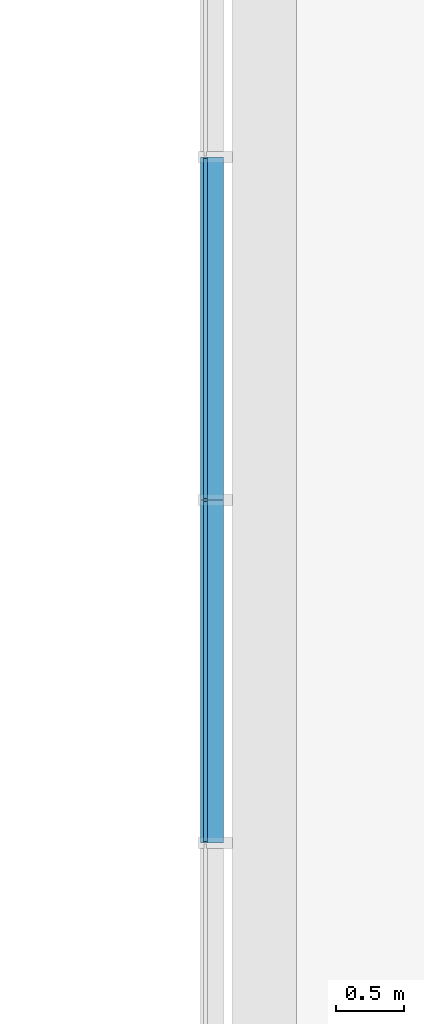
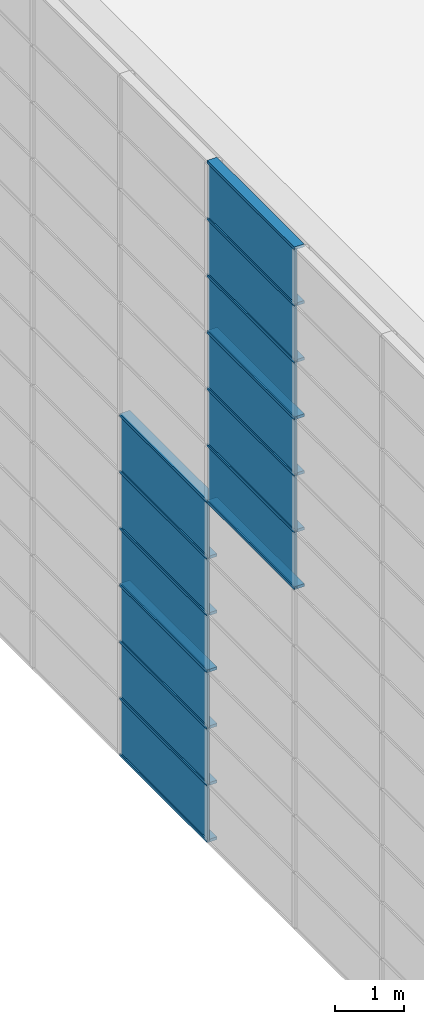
# One storey, part 17 of 105: 29 building element parts, 4 elements without a shape of their own.
"""IFC4 building model written with IfcOpenShell, lengths in millimetres."""

from ifc_helpers import new_model, entity, si_unit, converted_unit, derived_unit, direction, frame, origin_with_axes, place, context, subcontext, project, spatial, triangles, material, element, aggregate, save


model = new_model("IFC4")

# Units and contexts
model_context = context("Model", 3, precision=1e-05, world=origin_with_axes(), true_north=direction((0.0, 1.0)))
body_context = subcontext(model_context, "Body", "Model", "MODEL_VIEW")
ifc_project = project(units=[si_unit("LENGTHUNIT", "METRE", prefix="MILLI"), si_unit("AREAUNIT", "SQUARE_METRE"), si_unit("VOLUMEUNIT", "CUBIC_METRE"), converted_unit("PLANEANGLEUNIT", "DEGREE", entity("IfcLengthMeasure", 0.017453), si_unit("PLANEANGLEUNIT", "RADIAN"), dimensions=[0, 0, 0, 0, 0, 0, 0]), si_unit("SOLIDANGLEUNIT", "STERADIAN"), si_unit("MASSUNIT", "GRAM"), si_unit("TIMEUNIT", "SECOND"), si_unit("THERMODYNAMICTEMPERATUREUNIT", "DEGREE_CELSIUS"), si_unit("LUMINOUSINTENSITYUNIT", "LUMEN"), si_unit("POWERUNIT", "WATT"), derived_unit("THERMALTRANSMITTANCEUNIT", [(si_unit("POWERUNIT", "WATT"), 1), (si_unit("THERMODYNAMICTEMPERATUREUNIT", "KELVIN"), -1), (si_unit("AREAUNIT", "SQUARE_METRE"), -1)])], contexts=[model_context])

# Site, building, storey
site_placement = place(None, origin_with_axes())
site = spatial("IfcSite", under=ifc_project, at=site_placement, Name="Default Site", CompositionType="ELEMENT")
building_placement = place(site_placement, origin_with_axes())
building = spatial("IfcBuilding", under=site, at=building_placement, Name="Default Building", CompositionType="ELEMENT")
storey_placement = place(building_placement, origin_with_axes())
storey = spatial("IfcBuildingStorey", under=building, at=storey_placement, Name="OG - Story", CompositionType="ELEMENT", Elevation=0.0)

# Curtain wall, building element parts
curtain_wall_1_placement = place(storey_placement, origin_with_axes())
curtain_wall_1 = element("IfcCurtainWall", 1, at=curtain_wall_1_placement, inside=storey, Name="Fassade-003", PredefinedType="NOTDEFINED")
ifc_material_1 = material(Name="Normalglas")
building_element_part_1_placement = place(curtain_wall_1_placement, frame((31551.391327, -51326.104944, 0.0), z_axis=(0.0, 0.0, 1.0), x_axis=(1.0, 0.0, 0.0)))
building_element_part_1 = element("IfcBuildingElementPart", 2, at=building_element_part_1_placement, material=ifc_material_1, Name="Normalglas", PredefinedType="NOTDEFINED", context=body_context, shape_type="Tessellation", body=[
    triangles([(15.0, 31568.947, 995.0), (-14.999, 31568.947, 995.0), (-14.999, 29062.632, 995.0), (15.0, 29062.632, 995.0), (15.0, 31568.947, 5.0), (-14.999, 31568.947, 5.0), (-14.999, 29062.632, 5.0), (15.0, 29062.632, 5.0)], [[1, 2, 3], [1, 3, 4], [5, 6, 2], [5, 2, 1], [2, 6, 7], [2, 7, 3], [4, 3, 7], [4, 7, 8], [1, 4, 8], [1, 8, 5], [8, 7, 6], [8, 6, 5]], closed=False),
])
building_element_part_2_placement = place(curtain_wall_1_placement, frame((31551.391327, -51326.104944, 0.0), z_axis=(0.0, 0.0, 1.0), x_axis=(1.0, 0.0, 0.0)))
building_element_part_2 = element("IfcBuildingElementPart", 3, at=building_element_part_2_placement, material=ifc_material_1, Name="Normalglas", PredefinedType="NOTDEFINED", context=body_context, shape_type="Tessellation", body=[
    triangles([(15.0, 31568.947, 1995.0), (-14.999, 31568.947, 1995.0), (-14.999, 29062.632, 1995.0), (15.0, 29062.632, 1995.0), (15.0, 31568.947, 1005.0), (-14.999, 31568.947, 1005.0), (-14.999, 29062.632, 1005.0), (15.0, 29062.632, 1005.0)], [[1, 2, 3], [1, 3, 4], [5, 6, 2], [5, 2, 1], [2, 6, 7], [2, 7, 3], [4, 3, 7], [4, 7, 8], [1, 4, 8], [1, 8, 5], [8, 7, 6], [8, 6, 5]], closed=False),
])
building_element_part_3_placement = place(curtain_wall_1_placement, frame((31551.391327, -51326.104944, 0.0), z_axis=(0.0, 0.0, 1.0), x_axis=(1.0, 0.0, 0.0)))
building_element_part_3 = element("IfcBuildingElementPart", 4, at=building_element_part_3_placement, material=ifc_material_1, Name="Normalglas", PredefinedType="NOTDEFINED", context=body_context, shape_type="Tessellation", body=[
    triangles([(15.0, 31568.947, 2995.0), (-14.999, 31568.947, 2995.0), (-14.999, 29062.632, 2995.0), (15.0, 29062.632, 2995.0), (15.0, 31568.947, 2005.0), (-14.999, 31568.947, 2005.0), (-14.999, 29062.632, 2005.0), (15.0, 29062.632, 2005.0)], [[1, 2, 3], [1, 3, 4], [5, 6, 2], [5, 2, 1], [2, 6, 7], [2, 7, 3], [4, 3, 7], [4, 7, 8], [1, 4, 8], [1, 8, 5], [8, 7, 6], [8, 6, 5]], closed=False),
])
ifc_material_2 = material(Name="Blech")
building_element_part_4_placement = place(curtain_wall_1_placement, frame((31551.391327, -51326.104944, 0.0), z_axis=(0.0, 0.0, 1.0), x_axis=(1.0, 0.0, 0.0)))
building_element_part_4 = element("IfcBuildingElementPart", 5, at=building_element_part_4_placement, material=ifc_material_2, Name="Blech", PredefinedType="NOTDEFINED", context=body_context, shape_type="Tessellation", body=[
    triangles([(15.0, 31578.947, 25.0), (133.0, 31578.947, 25.0), (15.0, 31578.947, 5.0), (133.0, 31578.947, -24.999), (-14.999, 31578.947, 5.0), (-34.999, 31578.947, -24.999), (-34.999, 31578.947, 25.0), (-14.999, 31578.947, 25.0), (15.0, 29052.632, 5.0), (15.0, 29052.632, 25.0), (133.0, 29052.632, 25.0), (133.0, 29052.632, -24.999), (-34.999, 29052.632, -24.999), (-34.999, 29052.632, 25.0), (-14.999, 29052.632, 25.0), (-14.999, 29052.632, 5.0)], [[1, 2, 3], [3, 2, 4], [3, 4, 5], [5, 4, 6], [5, 6, 7], [5, 7, 8], [3, 9, 10], [3, 10, 1], [10, 11, 2], [10, 2, 1], [11, 12, 4], [11, 4, 2], [12, 13, 6], [12, 6, 4], [13, 14, 7], [13, 7, 6], [8, 7, 14], [8, 14, 15], [15, 16, 5], [15, 5, 8], [5, 16, 9], [5, 9, 3], [16, 9, 12], [16, 12, 13], [16, 13, 14], [16, 14, 15], [11, 12, 9], [11, 9, 10]], closed=False),
])
building_element_part_5_placement = place(curtain_wall_1_placement, frame((31551.391327, -51326.104944, 0.0), z_axis=(0.0, 0.0, 1.0), x_axis=(1.0, 0.0, 0.0)))
building_element_part_5 = element("IfcBuildingElementPart", 6, at=building_element_part_5_placement, material=ifc_material_2, Name="Blech", PredefinedType="NOTDEFINED", context=body_context, shape_type="Tessellation", body=[
    triangles([(-14.999, 31578.947, 1025.0), (-34.999, 31578.947, 1025.0), (-14.999, 31578.947, 1005.0), (-14.999, 31578.947, 995.0), (15.0, 31578.947, 1005.0), (133.0, 31578.947, 1025.0), (15.0, 31578.947, 1025.0), (-34.999, 31578.947, 975.0), (-14.999, 31578.947, 975.0), (15.0, 31578.947, 995.0), (15.0, 31578.947, 975.0), (133.0, 31578.947, 975.0), (15.0, 29052.632, 995.0), (-14.999, 29052.632, 995.0), (-14.999, 29052.632, 975.0), (-34.999, 29052.632, 975.0), (-34.999, 29052.632, 1025.0), (-14.999, 29052.632, 1025.0), (-14.999, 29052.632, 1005.0), (15.0, 29052.632, 1005.0), (15.0, 29052.632, 1025.0), (133.0, 29052.632, 1025.0), (133.0, 29052.632, 975.0), (15.0, 29052.632, 975.0)], [[1, 2, 3], [3, 2, 4], [3, 4, 5], [5, 4, 6], [5, 6, 7], [8, 9, 4], [8, 4, 2], [6, 4, 10], [6, 10, 11], [6, 11, 12], [10, 13, 14], [10, 14, 4], [4, 14, 15], [4, 15, 9], [15, 16, 8], [15, 8, 9], [8, 16, 17], [8, 17, 2], [18, 1, 2], [18, 2, 17], [1, 18, 19], [1, 19, 3], [5, 3, 19], [5, 19, 20], [7, 5, 20], [7, 20, 21], [7, 21, 22], [7, 22, 6], [6, 22, 23], [6, 23, 12], [11, 12, 23], [11, 23, 24], [11, 24, 13], [11, 13, 10], [21, 22, 20], [20, 22, 13], [20, 13, 19], [19, 13, 14], [19, 14, 17], [17, 14, 15], [17, 15, 16], [23, 24, 13], [23, 13, 22], [19, 17, 18]], closed=False),
])
building_element_part_6_placement = place(curtain_wall_1_placement, frame((31551.391327, -51326.104944, 0.0), z_axis=(0.0, 0.0, 1.0), x_axis=(1.0, 0.0, 0.0)))
building_element_part_6 = element("IfcBuildingElementPart", 7, at=building_element_part_6_placement, material=ifc_material_2, Name="Blech", PredefinedType="NOTDEFINED", context=body_context, shape_type="Tessellation", body=[
    triangles([(-14.999, 31578.947, 2025.0), (-34.999, 31578.947, 2025.0), (-14.999, 31578.947, 2005.0), (-14.999, 31578.947, 1995.0), (15.0, 31578.947, 2005.0), (133.0, 31578.947, 2025.0), (15.0, 31578.947, 2025.0), (-34.999, 31578.947, 1975.0), (-14.999, 31578.947, 1975.0), (15.0, 31578.947, 1995.0), (15.0, 31578.947, 1975.0), (133.0, 31578.947, 1975.0), (15.0, 29052.632, 1995.0), (-14.999, 29052.632, 1995.0), (-14.999, 29052.632, 1975.0), (-34.999, 29052.632, 1975.0), (-34.999, 29052.632, 2025.0), (-14.999, 29052.632, 2025.0), (-14.999, 29052.632, 2005.0), (15.0, 29052.632, 2005.0), (15.0, 29052.632, 2025.0), (133.0, 29052.632, 2025.0), (133.0, 29052.632, 1975.0), (15.0, 29052.632, 1975.0)], [[1, 2, 3], [3, 2, 4], [3, 4, 5], [5, 4, 6], [5, 6, 7], [8, 9, 4], [8, 4, 2], [6, 4, 10], [6, 10, 11], [6, 11, 12], [10, 13, 14], [10, 14, 4], [4, 14, 15], [4, 15, 9], [15, 16, 8], [15, 8, 9], [8, 16, 17], [8, 17, 2], [18, 1, 2], [18, 2, 17], [1, 18, 19], [1, 19, 3], [5, 3, 19], [5, 19, 20], [7, 5, 20], [7, 20, 21], [7, 21, 22], [7, 22, 6], [6, 22, 23], [6, 23, 12], [11, 12, 23], [11, 23, 24], [11, 24, 13], [11, 13, 10], [21, 22, 20], [20, 22, 13], [20, 13, 19], [19, 13, 14], [19, 14, 17], [17, 14, 15], [17, 15, 16], [23, 24, 13], [23, 13, 22], [19, 17, 18]], closed=False),
])
building_element_part_7_placement = place(curtain_wall_1_placement, frame((31551.391327, -51326.104944, 0.0), z_axis=(0.0, 0.0, 1.0), x_axis=(1.0, 0.0, 0.0)))
building_element_part_7 = element("IfcBuildingElementPart", 8, at=building_element_part_7_placement, material=ifc_material_2, Name="Blech", PredefinedType="NOTDEFINED", context=body_context, shape_type="Tessellation", body=[
    triangles([(-14.999, 31578.947, 2995.0), (15.0, 31578.947, 2995.0), (133.0, 31578.947, 3025.0), (-34.999, 31578.947, 3025.0), (-34.999, 31578.947, 2975.0), (-14.999, 31578.947, 2975.0), (15.0, 31578.947, 2975.0), (133.0, 31578.947, 2975.0), (15.0, 29052.632, 2995.0), (-14.999, 29052.632, 2995.0), (-14.999, 29052.632, 2975.0), (-34.999, 29052.632, 2975.0), (-34.999, 29052.632, 3025.0), (133.0, 29052.632, 3025.0), (133.0, 29052.632, 2975.0), (15.0, 29052.632, 2975.0)], [[1, 2, 3], [1, 3, 4], [1, 4, 5], [1, 5, 6], [7, 8, 3], [7, 3, 2], [1, 2, 9], [1, 9, 10], [11, 6, 1], [11, 1, 10], [6, 11, 12], [6, 12, 5], [13, 4, 5], [13, 5, 12], [14, 3, 4], [14, 4, 13], [15, 8, 3], [15, 3, 14], [16, 7, 8], [16, 8, 15], [2, 7, 16], [2, 16, 9], [10, 9, 14], [10, 14, 13], [10, 13, 12], [10, 12, 11], [16, 15, 14], [16, 14, 9]], closed=False),
])
aggregate(curtain_wall_1, [building_element_part_1, building_element_part_2, building_element_part_3, building_element_part_4, building_element_part_5, building_element_part_6, building_element_part_7])

curtain_wall_2_placement = place(storey_placement, origin_with_axes())
curtain_wall_2 = element("IfcCurtainWall", 9, at=curtain_wall_2_placement, inside=storey, Name="Fassade-003", PredefinedType="NOTDEFINED")
building_element_part_8_placement = place(curtain_wall_2_placement, frame((31551.391327, -51326.104944, 3000.0), z_axis=(0.0, 0.0, 1.0), x_axis=(1.0, 0.0, 0.0)))
building_element_part_8 = element("IfcBuildingElementPart", 10, at=building_element_part_8_placement, material=ifc_material_1, Name="Normalglas", PredefinedType="NOTDEFINED", context=body_context, shape_type="Tessellation", body=[
    triangles([(15.0, 31568.947, 995.0), (-14.999, 31568.947, 995.0), (-14.999, 29062.632, 995.0), (15.0, 29062.632, 995.0), (15.0, 31568.947, 5.0), (-14.999, 31568.947, 5.0), (-14.999, 29062.632, 5.0), (15.0, 29062.632, 5.0)], [[1, 2, 3], [1, 3, 4], [5, 6, 2], [5, 2, 1], [2, 6, 7], [2, 7, 3], [4, 3, 7], [4, 7, 8], [1, 4, 8], [1, 8, 5], [8, 7, 6], [8, 6, 5]], closed=False),
])
building_element_part_9_placement = place(curtain_wall_2_placement, frame((31551.391327, -51326.104944, 3000.0), z_axis=(0.0, 0.0, 1.0), x_axis=(1.0, 0.0, 0.0)))
building_element_part_9 = element("IfcBuildingElementPart", 11, at=building_element_part_9_placement, material=ifc_material_1, Name="Normalglas", PredefinedType="NOTDEFINED", context=body_context, shape_type="Tessellation", body=[
    triangles([(15.0, 31568.947, 1995.0), (-14.999, 31568.947, 1995.0), (-14.999, 29062.632, 1995.0), (15.0, 29062.632, 1995.0), (15.0, 31568.947, 1005.0), (-14.999, 31568.947, 1005.0), (-14.999, 29062.632, 1005.0), (15.0, 29062.632, 1005.0)], [[1, 2, 3], [1, 3, 4], [5, 6, 2], [5, 2, 1], [2, 6, 7], [2, 7, 3], [4, 3, 7], [4, 7, 8], [1, 4, 8], [1, 8, 5], [8, 7, 6], [8, 6, 5]], closed=False),
])
building_element_part_10_placement = place(curtain_wall_2_placement, frame((31551.391327, -51326.104944, 3000.0), z_axis=(0.0, 0.0, 1.0), x_axis=(1.0, 0.0, 0.0)))
building_element_part_10 = element("IfcBuildingElementPart", 12, at=building_element_part_10_placement, material=ifc_material_1, Name="Normalglas", PredefinedType="NOTDEFINED", context=body_context, shape_type="Tessellation", body=[
    triangles([(15.0, 31568.947, 2995.0), (-14.999, 31568.947, 2995.0), (-14.999, 29062.632, 2995.0), (15.0, 29062.632, 2995.0), (15.0, 31568.947, 2005.0), (-14.999, 31568.947, 2005.0), (-14.999, 29062.632, 2005.0), (15.0, 29062.632, 2005.0)], [[1, 2, 3], [1, 3, 4], [5, 6, 2], [5, 2, 1], [2, 6, 7], [2, 7, 3], [4, 3, 7], [4, 7, 8], [1, 4, 8], [1, 8, 5], [8, 7, 6], [8, 6, 5]], closed=False),
])
building_element_part_11_placement = place(curtain_wall_2_placement, frame((31551.391327, -51326.104944, 3000.0), z_axis=(0.0, 0.0, 1.0), x_axis=(1.0, 0.0, 0.0)))
building_element_part_11 = element("IfcBuildingElementPart", 13, at=building_element_part_11_placement, material=ifc_material_2, Name="Blech", PredefinedType="NOTDEFINED", context=body_context, shape_type="Tessellation", body=[
    triangles([(15.0, 31578.947, 25.0), (133.0, 31578.947, 25.0), (15.0, 31578.947, 5.0), (133.0, 31578.947, -24.999), (-14.999, 31578.947, 5.0), (-34.999, 31578.947, -24.999), (-34.999, 31578.947, 25.0), (-14.999, 31578.947, 25.0), (15.0, 29052.632, 5.0), (15.0, 29052.632, 25.0), (133.0, 29052.632, 25.0), (133.0, 29052.632, -24.999), (-34.999, 29052.632, -24.999), (-34.999, 29052.632, 25.0), (-14.999, 29052.632, 25.0), (-14.999, 29052.632, 5.0)], [[1, 2, 3], [3, 2, 4], [3, 4, 5], [5, 4, 6], [5, 6, 7], [5, 7, 8], [3, 9, 10], [3, 10, 1], [10, 11, 2], [10, 2, 1], [11, 12, 4], [11, 4, 2], [12, 13, 6], [12, 6, 4], [13, 14, 7], [13, 7, 6], [8, 7, 14], [8, 14, 15], [15, 16, 5], [15, 5, 8], [5, 16, 9], [5, 9, 3], [16, 9, 12], [16, 12, 13], [16, 13, 14], [16, 14, 15], [11, 12, 9], [11, 9, 10]], closed=False),
])
building_element_part_12_placement = place(curtain_wall_2_placement, frame((31551.391327, -51326.104944, 3000.0), z_axis=(0.0, 0.0, 1.0), x_axis=(1.0, 0.0, 0.0)))
building_element_part_12 = element("IfcBuildingElementPart", 14, at=building_element_part_12_placement, material=ifc_material_2, Name="Blech", PredefinedType="NOTDEFINED", context=body_context, shape_type="Tessellation", body=[
    triangles([(-14.999, 31578.947, 1025.0), (-34.999, 31578.947, 1025.0), (-14.999, 31578.947, 1005.0), (-14.999, 31578.947, 995.0), (15.0, 31578.947, 1005.0), (133.0, 31578.947, 1025.0), (15.0, 31578.947, 1025.0), (-34.999, 31578.947, 975.0), (-14.999, 31578.947, 975.0), (15.0, 31578.947, 995.0), (15.0, 31578.947, 975.0), (133.0, 31578.947, 975.0), (15.0, 29052.632, 995.0), (-14.999, 29052.632, 995.0), (-14.999, 29052.632, 975.0), (-34.999, 29052.632, 975.0), (-34.999, 29052.632, 1025.0), (-14.999, 29052.632, 1025.0), (-14.999, 29052.632, 1005.0), (15.0, 29052.632, 1005.0), (15.0, 29052.632, 1025.0), (133.0, 29052.632, 1025.0), (133.0, 29052.632, 975.0), (15.0, 29052.632, 975.0)], [[1, 2, 3], [3, 2, 4], [3, 4, 5], [5, 4, 6], [5, 6, 7], [8, 9, 4], [8, 4, 2], [6, 4, 10], [6, 10, 11], [6, 11, 12], [10, 13, 14], [10, 14, 4], [4, 14, 15], [4, 15, 9], [15, 16, 8], [15, 8, 9], [8, 16, 17], [8, 17, 2], [18, 1, 2], [18, 2, 17], [1, 18, 19], [1, 19, 3], [5, 3, 19], [5, 19, 20], [7, 5, 20], [7, 20, 21], [7, 21, 22], [7, 22, 6], [6, 22, 23], [6, 23, 12], [11, 12, 23], [11, 23, 24], [11, 24, 13], [11, 13, 10], [21, 22, 20], [20, 22, 13], [20, 13, 19], [19, 13, 14], [19, 14, 17], [17, 14, 15], [17, 15, 16], [23, 24, 13], [23, 13, 22], [19, 17, 18]], closed=False),
])
building_element_part_13_placement = place(curtain_wall_2_placement, frame((31551.391327, -51326.104944, 3000.0), z_axis=(0.0, 0.0, 1.0), x_axis=(1.0, 0.0, 0.0)))
building_element_part_13 = element("IfcBuildingElementPart", 15, at=building_element_part_13_placement, material=ifc_material_2, Name="Blech", PredefinedType="NOTDEFINED", context=body_context, shape_type="Tessellation", body=[
    triangles([(-14.999, 29052.632, 2995.0), (15.0, 29052.632, 2995.0), (133.0, 29052.632, 3025.0), (-34.999, 29052.632, 3025.0), (-34.999, 29052.632, 2975.0), (-14.999, 29052.632, 2975.0), (15.0, 29052.632, 2975.0), (133.0, 29052.632, 2975.0), (15.0, 26526.316, 2995.0), (-14.999, 26526.316, 2995.0), (-14.999, 26526.316, 2975.0), (-34.999, 26526.316, 2975.0), (-34.999, 26526.316, 3025.0), (133.0, 26526.316, 3025.0), (133.0, 26526.316, 2975.0), (15.0, 26526.316, 2975.0)], [[1, 2, 3], [1, 3, 4], [1, 4, 5], [1, 5, 6], [7, 8, 3], [7, 3, 2], [1, 2, 9], [1, 9, 10], [11, 6, 1], [11, 1, 10], [6, 11, 12], [6, 12, 5], [13, 4, 5], [13, 5, 12], [14, 3, 4], [14, 4, 13], [15, 8, 3], [15, 3, 14], [16, 7, 8], [16, 8, 15], [2, 7, 16], [2, 16, 9], [10, 9, 14], [10, 14, 13], [10, 13, 12], [10, 12, 11], [16, 15, 14], [16, 14, 9]], closed=False),
])
building_element_part_14_placement = place(curtain_wall_2_placement, frame((31551.391327, -51326.104944, 3000.0), z_axis=(0.0, 0.0, 1.0), x_axis=(1.0, 0.0, 0.0)))
building_element_part_14 = element("IfcBuildingElementPart", 16, at=building_element_part_14_placement, material=ifc_material_2, Name="Blech", PredefinedType="NOTDEFINED", context=body_context, shape_type="Tessellation", body=[
    triangles([(-14.999, 31578.947, 2025.0), (-34.999, 31578.947, 2025.0), (-14.999, 31578.947, 2005.0), (-14.999, 31578.947, 1995.0), (15.0, 31578.947, 2005.0), (133.0, 31578.947, 2025.0), (15.0, 31578.947, 2025.0), (-34.999, 31578.947, 1975.0), (-14.999, 31578.947, 1975.0), (15.0, 31578.947, 1995.0), (15.0, 31578.947, 1975.0), (133.0, 31578.947, 1975.0), (15.0, 29052.632, 1995.0), (-14.999, 29052.632, 1995.0), (-14.999, 29052.632, 1975.0), (-34.999, 29052.632, 1975.0), (-34.999, 29052.632, 2025.0), (-14.999, 29052.632, 2025.0), (-14.999, 29052.632, 2005.0), (15.0, 29052.632, 2005.0), (15.0, 29052.632, 2025.0), (133.0, 29052.632, 2025.0), (133.0, 29052.632, 1975.0), (15.0, 29052.632, 1975.0)], [[1, 2, 3], [3, 2, 4], [3, 4, 5], [5, 4, 6], [5, 6, 7], [8, 9, 4], [8, 4, 2], [6, 4, 10], [6, 10, 11], [6, 11, 12], [10, 13, 14], [10, 14, 4], [4, 14, 15], [4, 15, 9], [15, 16, 8], [15, 8, 9], [8, 16, 17], [8, 17, 2], [18, 1, 2], [18, 2, 17], [1, 18, 19], [1, 19, 3], [5, 3, 19], [5, 19, 20], [7, 5, 20], [7, 20, 21], [7, 21, 22], [7, 22, 6], [6, 22, 23], [6, 23, 12], [11, 12, 23], [11, 23, 24], [11, 24, 13], [11, 13, 10], [21, 22, 20], [20, 22, 13], [20, 13, 19], [19, 13, 14], [19, 14, 17], [17, 14, 15], [17, 15, 16], [23, 24, 13], [23, 13, 22], [19, 17, 18]], closed=False),
])
building_element_part_15_placement = place(curtain_wall_2_placement, frame((31551.391327, -51326.104944, 3000.0), z_axis=(0.0, 0.0, 1.0), x_axis=(1.0, 0.0, 0.0)))
building_element_part_15 = element("IfcBuildingElementPart", 17, at=building_element_part_15_placement, material=ifc_material_2, Name="Blech", PredefinedType="NOTDEFINED", context=body_context, shape_type="Tessellation", body=[
    triangles([(-14.999, 31578.947, 2995.0), (15.0, 31578.947, 2995.0), (133.0, 31578.947, 3025.0), (-34.999, 31578.947, 3025.0), (-34.999, 31578.947, 2975.0), (-14.999, 31578.947, 2975.0), (15.0, 31578.947, 2975.0), (133.0, 31578.947, 2975.0), (15.0, 29052.632, 2995.0), (-14.999, 29052.632, 2995.0), (-14.999, 29052.632, 2975.0), (-34.999, 29052.632, 2975.0), (-34.999, 29052.632, 3025.0), (133.0, 29052.632, 3025.0), (133.0, 29052.632, 2975.0), (15.0, 29052.632, 2975.0)], [[1, 2, 3], [1, 3, 4], [1, 4, 5], [1, 5, 6], [7, 8, 3], [7, 3, 2], [1, 2, 9], [1, 9, 10], [11, 6, 1], [11, 1, 10], [6, 11, 12], [6, 12, 5], [13, 4, 5], [13, 5, 12], [14, 3, 4], [14, 4, 13], [15, 8, 3], [15, 3, 14], [16, 7, 8], [16, 8, 15], [2, 7, 16], [2, 16, 9], [10, 9, 14], [10, 14, 13], [10, 13, 12], [10, 12, 11], [16, 15, 14], [16, 14, 9]], closed=False),
])
aggregate(curtain_wall_2, [building_element_part_8, building_element_part_9, building_element_part_10, building_element_part_11, building_element_part_12, building_element_part_13, building_element_part_14, building_element_part_15])

curtain_wall_3_placement = place(storey_placement, origin_with_axes())
curtain_wall_3 = element("IfcCurtainWall", 18, at=curtain_wall_3_placement, inside=storey, Name="Fassade-003", PredefinedType="NOTDEFINED")
building_element_part_16_placement = place(curtain_wall_3_placement, frame((31551.391327, -51326.104944, 6000.0), z_axis=(0.0, 0.0, 1.0), x_axis=(1.0, 0.0, 0.0)))
building_element_part_16 = element("IfcBuildingElementPart", 19, at=building_element_part_16_placement, material=ifc_material_1, Name="Normalglas", PredefinedType="NOTDEFINED", context=body_context, shape_type="Tessellation", body=[
    triangles([(15.0, 29042.632, 995.0), (-14.999, 29042.632, 995.0), (-14.999, 26536.316, 995.0), (15.0, 26536.316, 995.0), (15.0, 29042.632, 5.0), (-14.999, 29042.632, 5.0), (-14.999, 26536.316, 5.0), (15.0, 26536.316, 5.0)], [[1, 2, 3], [1, 3, 4], [5, 6, 2], [5, 2, 1], [2, 6, 7], [2, 7, 3], [4, 3, 7], [4, 7, 8], [1, 4, 8], [1, 8, 5], [8, 7, 6], [8, 6, 5]], closed=False),
])
building_element_part_17_placement = place(curtain_wall_3_placement, frame((31551.391327, -51326.104944, 6000.0), z_axis=(0.0, 0.0, 1.0), x_axis=(1.0, 0.0, 0.0)))
building_element_part_17 = element("IfcBuildingElementPart", 20, at=building_element_part_17_placement, material=ifc_material_1, Name="Normalglas", PredefinedType="NOTDEFINED", context=body_context, shape_type="Tessellation", body=[
    triangles([(15.0, 29042.632, 1995.0), (-14.999, 29042.632, 1995.0), (-14.999, 26536.316, 1995.0), (15.0, 26536.316, 1995.0), (15.0, 29042.632, 1005.0), (-14.999, 29042.632, 1005.0), (-14.999, 26536.316, 1005.0), (15.0, 26536.316, 1005.0)], [[1, 2, 3], [1, 3, 4], [5, 6, 2], [5, 2, 1], [2, 6, 7], [2, 7, 3], [4, 3, 7], [4, 7, 8], [1, 4, 8], [1, 8, 5], [8, 7, 6], [8, 6, 5]], closed=False),
])
building_element_part_18_placement = place(curtain_wall_3_placement, frame((31551.391327, -51326.104944, 6000.0), z_axis=(0.0, 0.0, 1.0), x_axis=(1.0, 0.0, 0.0)))
building_element_part_18 = element("IfcBuildingElementPart", 21, at=building_element_part_18_placement, material=ifc_material_1, Name="Normalglas", PredefinedType="NOTDEFINED", context=body_context, shape_type="Tessellation", body=[
    triangles([(15.0, 29042.632, 2995.0), (-14.999, 29042.632, 2995.0), (-14.999, 26536.316, 2995.0), (15.0, 26536.316, 2995.0), (15.0, 29042.632, 2005.0), (-14.999, 29042.632, 2005.0), (-14.999, 26536.316, 2005.0), (15.0, 26536.316, 2005.0)], [[1, 2, 3], [1, 3, 4], [5, 6, 2], [5, 2, 1], [2, 6, 7], [2, 7, 3], [4, 3, 7], [4, 7, 8], [1, 4, 8], [1, 8, 5], [8, 7, 6], [8, 6, 5]], closed=False),
])
building_element_part_19_placement = place(curtain_wall_3_placement, frame((31551.391327, -51326.104944, 6000.0), z_axis=(0.0, 0.0, 1.0), x_axis=(1.0, 0.0, 0.0)))
building_element_part_19 = element("IfcBuildingElementPart", 22, at=building_element_part_19_placement, material=ifc_material_2, Name="Blech", PredefinedType="NOTDEFINED", context=body_context, shape_type="Tessellation", body=[
    triangles([(15.0, 29052.632, 25.0), (133.0, 29052.632, 25.0), (15.0, 29052.632, 5.0), (133.0, 29052.632, -24.999), (-14.999, 29052.632, 5.0), (-34.999, 29052.632, -24.999), (-34.999, 29052.632, 25.0), (-14.999, 29052.632, 25.0), (15.0, 26526.316, 5.0), (15.0, 26526.316, 25.0), (133.0, 26526.316, 25.0), (133.0, 26526.316, -24.999), (-34.999, 26526.316, -24.999), (-34.999, 26526.316, 25.0), (-14.999, 26526.316, 25.0), (-14.999, 26526.316, 5.0)], [[1, 2, 3], [3, 2, 4], [3, 4, 5], [5, 4, 6], [5, 6, 7], [5, 7, 8], [3, 9, 10], [3, 10, 1], [10, 11, 2], [10, 2, 1], [11, 12, 4], [11, 4, 2], [12, 13, 6], [12, 6, 4], [13, 14, 7], [13, 7, 6], [8, 7, 14], [8, 14, 15], [15, 16, 5], [15, 5, 8], [5, 16, 9], [5, 9, 3], [16, 9, 12], [16, 12, 13], [16, 13, 14], [16, 14, 15], [11, 12, 9], [11, 9, 10]], closed=False),
])
building_element_part_20_placement = place(curtain_wall_3_placement, frame((31551.391327, -51326.104944, 6000.0), z_axis=(0.0, 0.0, 1.0), x_axis=(1.0, 0.0, 0.0)))
building_element_part_20 = element("IfcBuildingElementPart", 23, at=building_element_part_20_placement, material=ifc_material_2, Name="Blech", PredefinedType="NOTDEFINED", context=body_context, shape_type="Tessellation", body=[
    triangles([(-14.999, 29052.632, 1025.0), (-34.999, 29052.632, 1025.0), (-14.999, 29052.632, 1005.0), (-14.999, 29052.632, 995.0), (15.0, 29052.632, 1005.0), (133.0, 29052.632, 1025.0), (15.0, 29052.632, 1025.0), (-34.999, 29052.632, 975.0), (-14.999, 29052.632, 975.0), (15.0, 29052.632, 995.0), (15.0, 29052.632, 975.0), (133.0, 29052.632, 975.0), (15.0, 26526.316, 995.0), (-14.999, 26526.316, 995.0), (-14.999, 26526.316, 975.0), (-34.999, 26526.316, 975.0), (-34.999, 26526.316, 1025.0), (-14.999, 26526.316, 1025.0), (-14.999, 26526.316, 1005.0), (15.0, 26526.316, 1005.0), (15.0, 26526.316, 1025.0), (133.0, 26526.316, 1025.0), (133.0, 26526.316, 975.0), (15.0, 26526.316, 975.0)], [[1, 2, 3], [3, 2, 4], [3, 4, 5], [5, 4, 6], [5, 6, 7], [8, 9, 4], [8, 4, 2], [6, 4, 10], [6, 10, 11], [6, 11, 12], [10, 13, 14], [10, 14, 4], [4, 14, 15], [4, 15, 9], [15, 16, 8], [15, 8, 9], [8, 16, 17], [8, 17, 2], [18, 1, 2], [18, 2, 17], [1, 18, 19], [1, 19, 3], [5, 3, 19], [5, 19, 20], [7, 5, 20], [7, 20, 21], [7, 21, 22], [7, 22, 6], [6, 22, 23], [6, 23, 12], [11, 12, 23], [11, 23, 24], [11, 24, 13], [11, 13, 10], [21, 22, 20], [20, 22, 13], [20, 13, 19], [19, 13, 14], [19, 14, 17], [17, 14, 15], [17, 15, 16], [23, 24, 13], [23, 13, 22], [19, 17, 18]], closed=False),
])
building_element_part_21_placement = place(curtain_wall_3_placement, frame((31551.391327, -51326.104944, 6000.0), z_axis=(0.0, 0.0, 1.0), x_axis=(1.0, 0.0, 0.0)))
building_element_part_21 = element("IfcBuildingElementPart", 24, at=building_element_part_21_placement, material=ifc_material_2, Name="Blech", PredefinedType="NOTDEFINED", context=body_context, shape_type="Tessellation", body=[
    triangles([(-14.999, 29052.632, 2025.0), (-34.999, 29052.632, 2025.0), (-14.999, 29052.632, 2005.0), (-14.999, 29052.632, 1995.0), (15.0, 29052.632, 2005.0), (133.0, 29052.632, 2025.0), (15.0, 29052.632, 2025.0), (-34.999, 29052.632, 1975.0), (-14.999, 29052.632, 1975.0), (15.0, 29052.632, 1995.0), (15.0, 29052.632, 1975.0), (133.0, 29052.632, 1975.0), (15.0, 26526.316, 1995.0), (-14.999, 26526.316, 1995.0), (-14.999, 26526.316, 1975.0), (-34.999, 26526.316, 1975.0), (-34.999, 26526.316, 2025.0), (-14.999, 26526.316, 2025.0), (-14.999, 26526.316, 2005.0), (15.0, 26526.316, 2005.0), (15.0, 26526.316, 2025.0), (133.0, 26526.316, 2025.0), (133.0, 26526.316, 1975.0), (15.0, 26526.316, 1975.0)], [[1, 2, 3], [3, 2, 4], [3, 4, 5], [5, 4, 6], [5, 6, 7], [8, 9, 4], [8, 4, 2], [6, 4, 10], [6, 10, 11], [6, 11, 12], [10, 13, 14], [10, 14, 4], [4, 14, 15], [4, 15, 9], [15, 16, 8], [15, 8, 9], [8, 16, 17], [8, 17, 2], [18, 1, 2], [18, 2, 17], [1, 18, 19], [1, 19, 3], [5, 3, 19], [5, 19, 20], [7, 5, 20], [7, 20, 21], [7, 21, 22], [7, 22, 6], [6, 22, 23], [6, 23, 12], [11, 12, 23], [11, 23, 24], [11, 24, 13], [11, 13, 10], [21, 22, 20], [20, 22, 13], [20, 13, 19], [19, 13, 14], [19, 14, 17], [17, 14, 15], [17, 15, 16], [23, 24, 13], [23, 13, 22], [19, 17, 18]], closed=False),
])
building_element_part_22_placement = place(curtain_wall_3_placement, frame((31551.391327, -51326.104944, 6000.0), z_axis=(0.0, 0.0, 1.0), x_axis=(1.0, 0.0, 0.0)))
building_element_part_22 = element("IfcBuildingElementPart", 25, at=building_element_part_22_placement, material=ifc_material_2, Name="Blech", PredefinedType="NOTDEFINED", context=body_context, shape_type="Tessellation", body=[
    triangles([(-14.999, 29052.632, 2995.0), (15.0, 29052.632, 2995.0), (133.0, 29052.632, 3025.0), (-34.999, 29052.632, 3025.0), (-34.999, 29052.632, 2975.0), (-14.999, 29052.632, 2975.0), (15.0, 29052.632, 2975.0), (133.0, 29052.632, 2975.0), (15.0, 26526.316, 2995.0), (-14.999, 26526.316, 2995.0), (-14.999, 26526.316, 2975.0), (-34.999, 26526.316, 2975.0), (-34.999, 26526.316, 3025.0), (133.0, 26526.316, 3025.0), (133.0, 26526.316, 2975.0), (15.0, 26526.316, 2975.0)], [[1, 2, 3], [1, 3, 4], [1, 4, 5], [1, 5, 6], [7, 8, 3], [7, 3, 2], [1, 2, 9], [1, 9, 10], [11, 6, 1], [11, 1, 10], [6, 11, 12], [6, 12, 5], [13, 4, 5], [13, 5, 12], [14, 3, 4], [14, 4, 13], [15, 8, 3], [15, 3, 14], [16, 7, 8], [16, 8, 15], [2, 7, 16], [2, 16, 9], [10, 9, 14], [10, 14, 13], [10, 13, 12], [10, 12, 11], [16, 15, 14], [16, 14, 9]], closed=False),
])
aggregate(curtain_wall_3, [building_element_part_16, building_element_part_17, building_element_part_18, building_element_part_19, building_element_part_20, building_element_part_21, building_element_part_22])

curtain_wall_4_placement = place(storey_placement, origin_with_axes())
curtain_wall_4 = element("IfcCurtainWall", 26, at=curtain_wall_4_placement, inside=storey, Name="Fassade-003", PredefinedType="NOTDEFINED")
building_element_part_23_placement = place(curtain_wall_4_placement, frame((31551.391327, -51326.104944, 9000.0), z_axis=(0.0, 0.0, 1.0), x_axis=(1.0, 0.0, 0.0)))
building_element_part_23 = element("IfcBuildingElementPart", 27, at=building_element_part_23_placement, material=ifc_material_1, Name="Normalglas", PredefinedType="NOTDEFINED", context=body_context, shape_type="Tessellation", body=[
    triangles([(15.0, 29042.632, 995.0), (-14.999, 29042.632, 995.0), (-14.999, 26536.316, 995.0), (15.0, 26536.316, 995.0), (15.0, 29042.632, 5.0), (-14.999, 29042.632, 5.0), (-14.999, 26536.316, 5.0), (15.0, 26536.316, 5.0)], [[1, 2, 3], [1, 3, 4], [5, 6, 2], [5, 2, 1], [2, 6, 7], [2, 7, 3], [4, 3, 7], [4, 7, 8], [1, 4, 8], [1, 8, 5], [8, 7, 6], [8, 6, 5]], closed=False),
])
building_element_part_24_placement = place(curtain_wall_4_placement, frame((31551.391327, -51326.104944, 9000.0), z_axis=(0.0, 0.0, 1.0), x_axis=(1.0, 0.0, 0.0)))
building_element_part_24 = element("IfcBuildingElementPart", 28, at=building_element_part_24_placement, material=ifc_material_1, Name="Normalglas", PredefinedType="NOTDEFINED", context=body_context, shape_type="Tessellation", body=[
    triangles([(15.0, 29042.632, 1995.0), (-14.999, 29042.632, 1995.0), (-14.999, 26536.316, 1995.0), (15.0, 26536.316, 1995.0), (15.0, 29042.632, 1005.0), (-14.999, 29042.632, 1005.0), (-14.999, 26536.316, 1005.0), (15.0, 26536.316, 1005.0)], [[1, 2, 3], [1, 3, 4], [5, 6, 2], [5, 2, 1], [2, 6, 7], [2, 7, 3], [4, 3, 7], [4, 7, 8], [1, 4, 8], [1, 8, 5], [8, 7, 6], [8, 6, 5]], closed=False),
])
building_element_part_25_placement = place(curtain_wall_4_placement, frame((31551.391327, -51326.104944, 9000.0), z_axis=(0.0, 0.0, 1.0), x_axis=(1.0, 0.0, 0.0)))
building_element_part_25 = element("IfcBuildingElementPart", 29, at=building_element_part_25_placement, material=ifc_material_1, Name="Normalglas", PredefinedType="NOTDEFINED", context=body_context, shape_type="Tessellation", body=[
    triangles([(15.0, 29042.632, 2995.0), (-14.999, 29042.632, 2995.0), (-14.999, 26536.316, 2995.0), (15.0, 26536.316, 2995.0), (15.0, 29042.632, 2005.0), (-14.999, 29042.632, 2005.0), (-14.999, 26536.316, 2005.0), (15.0, 26536.316, 2005.0)], [[1, 2, 3], [1, 3, 4], [5, 6, 2], [5, 2, 1], [2, 6, 7], [2, 7, 3], [4, 3, 7], [4, 7, 8], [1, 4, 8], [1, 8, 5], [8, 7, 6], [8, 6, 5]], closed=False),
])
building_element_part_26_placement = place(curtain_wall_4_placement, frame((31551.391327, -51326.104944, 9000.0), z_axis=(0.0, 0.0, 1.0), x_axis=(1.0, 0.0, 0.0)))
building_element_part_26 = element("IfcBuildingElementPart", 30, at=building_element_part_26_placement, material=ifc_material_2, Name="Blech", PredefinedType="NOTDEFINED", context=body_context, shape_type="Tessellation", body=[
    triangles([(15.0, 29052.632, 25.0), (133.0, 29052.632, 25.0), (15.0, 29052.632, 5.0), (133.0, 29052.632, -24.999), (-14.999, 29052.632, 5.0), (-34.999, 29052.632, -24.999), (-34.999, 29052.632, 25.0), (-14.999, 29052.632, 25.0), (15.0, 26526.316, 5.0), (15.0, 26526.316, 25.0), (133.0, 26526.316, 25.0), (133.0, 26526.316, -24.999), (-34.999, 26526.316, -24.999), (-34.999, 26526.316, 25.0), (-14.999, 26526.316, 25.0), (-14.999, 26526.316, 5.0)], [[1, 2, 3], [3, 2, 4], [3, 4, 5], [5, 4, 6], [5, 6, 7], [5, 7, 8], [3, 9, 10], [3, 10, 1], [10, 11, 2], [10, 2, 1], [11, 12, 4], [11, 4, 2], [12, 13, 6], [12, 6, 4], [13, 14, 7], [13, 7, 6], [8, 7, 14], [8, 14, 15], [15, 16, 5], [15, 5, 8], [5, 16, 9], [5, 9, 3], [16, 9, 12], [16, 12, 13], [16, 13, 14], [16, 14, 15], [11, 12, 9], [11, 9, 10]], closed=False),
])
building_element_part_27_placement = place(curtain_wall_4_placement, frame((31551.391327, -51326.104944, 9000.0), z_axis=(0.0, 0.0, 1.0), x_axis=(1.0, 0.0, 0.0)))
building_element_part_27 = element("IfcBuildingElementPart", 31, at=building_element_part_27_placement, material=ifc_material_2, Name="Blech", PredefinedType="NOTDEFINED", context=body_context, shape_type="Tessellation", body=[
    triangles([(-14.999, 29052.632, 1025.0), (-34.999, 29052.632, 1025.0), (-14.999, 29052.632, 1005.0), (-14.999, 29052.632, 995.0), (15.0, 29052.632, 1005.0), (133.0, 29052.632, 1025.0), (15.0, 29052.632, 1025.0), (-34.999, 29052.632, 975.0), (-14.999, 29052.632, 975.0), (15.0, 29052.632, 995.0), (15.0, 29052.632, 975.0), (133.0, 29052.632, 975.0), (15.0, 26526.316, 995.0), (-14.999, 26526.316, 995.0), (-14.999, 26526.316, 975.0), (-34.999, 26526.316, 975.0), (-34.999, 26526.316, 1025.0), (-14.999, 26526.316, 1025.0), (-14.999, 26526.316, 1005.0), (15.0, 26526.316, 1005.0), (15.0, 26526.316, 1025.0), (133.0, 26526.316, 1025.0), (133.0, 26526.316, 975.0), (15.0, 26526.316, 975.0)], [[1, 2, 3], [3, 2, 4], [3, 4, 5], [5, 4, 6], [5, 6, 7], [8, 9, 4], [8, 4, 2], [6, 4, 10], [6, 10, 11], [6, 11, 12], [10, 13, 14], [10, 14, 4], [4, 14, 15], [4, 15, 9], [15, 16, 8], [15, 8, 9], [8, 16, 17], [8, 17, 2], [18, 1, 2], [18, 2, 17], [1, 18, 19], [1, 19, 3], [5, 3, 19], [5, 19, 20], [7, 5, 20], [7, 20, 21], [7, 21, 22], [7, 22, 6], [6, 22, 23], [6, 23, 12], [11, 12, 23], [11, 23, 24], [11, 24, 13], [11, 13, 10], [21, 22, 20], [20, 22, 13], [20, 13, 19], [19, 13, 14], [19, 14, 17], [17, 14, 15], [17, 15, 16], [23, 24, 13], [23, 13, 22], [19, 17, 18]], closed=False),
])
building_element_part_28_placement = place(curtain_wall_4_placement, frame((31551.391327, -51326.104944, 9000.0), z_axis=(0.0, 0.0, 1.0), x_axis=(1.0, 0.0, 0.0)))
building_element_part_28 = element("IfcBuildingElementPart", 32, at=building_element_part_28_placement, material=ifc_material_2, Name="Blech", PredefinedType="NOTDEFINED", context=body_context, shape_type="Tessellation", body=[
    triangles([(-14.999, 29052.632, 2025.0), (-34.999, 29052.632, 2025.0), (-14.999, 29052.632, 2005.0), (-14.999, 29052.632, 1995.0), (15.0, 29052.632, 2005.0), (133.0, 29052.632, 2025.0), (15.0, 29052.632, 2025.0), (-34.999, 29052.632, 1975.0), (-14.999, 29052.632, 1975.0), (15.0, 29052.632, 1995.0), (15.0, 29052.632, 1975.0), (133.0, 29052.632, 1975.0), (15.0, 26526.316, 1995.0), (-14.999, 26526.316, 1995.0), (-14.999, 26526.316, 1975.0), (-34.999, 26526.316, 1975.0), (-34.999, 26526.316, 2025.0), (-14.999, 26526.316, 2025.0), (-14.999, 26526.316, 2005.0), (15.0, 26526.316, 2005.0), (15.0, 26526.316, 2025.0), (133.0, 26526.316, 2025.0), (133.0, 26526.316, 1975.0), (15.0, 26526.316, 1975.0)], [[1, 2, 3], [3, 2, 4], [3, 4, 5], [5, 4, 6], [5, 6, 7], [8, 9, 4], [8, 4, 2], [6, 4, 10], [6, 10, 11], [6, 11, 12], [10, 13, 14], [10, 14, 4], [4, 14, 15], [4, 15, 9], [15, 16, 8], [15, 8, 9], [8, 16, 17], [8, 17, 2], [18, 1, 2], [18, 2, 17], [1, 18, 19], [1, 19, 3], [5, 3, 19], [5, 19, 20], [7, 5, 20], [7, 20, 21], [7, 21, 22], [7, 22, 6], [6, 22, 23], [6, 23, 12], [11, 12, 23], [11, 23, 24], [11, 24, 13], [11, 13, 10], [21, 22, 20], [20, 22, 13], [20, 13, 19], [19, 13, 14], [19, 14, 17], [17, 14, 15], [17, 15, 16], [23, 24, 13], [23, 13, 22], [19, 17, 18]], closed=False),
])
building_element_part_29_placement = place(curtain_wall_4_placement, frame((31551.391327, -51326.104944, 9000.0), z_axis=(0.0, 0.0, 1.0), x_axis=(1.0, 0.0, 0.0)))
building_element_part_29 = element("IfcBuildingElementPart", 33, at=building_element_part_29_placement, material=ifc_material_2, Name="Blech", PredefinedType="NOTDEFINED", context=body_context, shape_type="Tessellation", body=[
    triangles([(-14.999, 29052.632, 2995.0), (15.0, 29052.632, 2995.0), (133.0, 29052.632, 3025.0), (-34.999, 29052.632, 3025.0), (-34.999, 29052.632, 2975.0), (-14.999, 29052.632, 2975.0), (15.0, 29052.632, 2975.0), (133.0, 29052.632, 2975.0), (15.0, 26526.316, 2995.0), (-14.999, 26526.316, 2995.0), (-14.999, 26526.316, 2975.0), (-34.999, 26526.316, 2975.0), (-34.999, 26526.316, 3025.0), (133.0, 26526.316, 3025.0), (133.0, 26526.316, 2975.0), (15.0, 26526.316, 2975.0)], [[1, 2, 3], [1, 3, 4], [1, 4, 5], [1, 5, 6], [7, 8, 3], [7, 3, 2], [1, 2, 9], [1, 9, 10], [11, 6, 1], [11, 1, 10], [6, 11, 12], [6, 12, 5], [13, 4, 5], [13, 5, 12], [14, 3, 4], [14, 4, 13], [15, 8, 3], [15, 3, 14], [16, 7, 8], [16, 8, 15], [2, 7, 16], [2, 16, 9], [10, 9, 14], [10, 14, 13], [10, 13, 12], [10, 12, 11], [16, 15, 14], [16, 14, 9]], closed=False),
])
aggregate(curtain_wall_4, [building_element_part_23, building_element_part_24, building_element_part_25, building_element_part_26, building_element_part_27, building_element_part_28, building_element_part_29])

save(model, "model.ifc")
